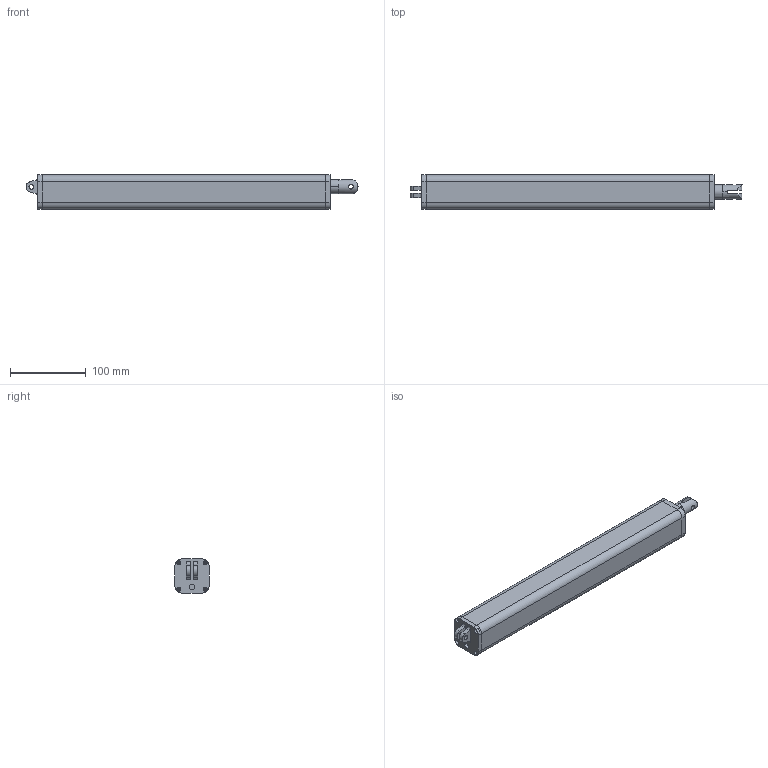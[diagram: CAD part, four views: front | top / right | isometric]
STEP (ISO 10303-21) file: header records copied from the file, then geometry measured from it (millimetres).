
FILE_DESCRIPTION((''),'2;1');
FILE_NAME('LAS4-S100_ASM','2007-07-11T',('amyliao'),(''),'PRO/ENGINEER BY PARAMETRIC TECHNOLOGY CORPORATION, 2003210','PRO/ENGINEER BY PARAMETRIC TECHNOLOGY CORPORATION, 2003210','');
FILE_SCHEMA(('CONFIG_CONTROL_DESIGN'));
Length unit declared in the file: millimetre
Products named in the file (7): OUT-TUBE; BACK-FIX; T1; T2; LAF-IN-TUBE; T3; LAS4-S100_ASM
Assembly tree (6 placements, depth 2):
  LAS4-S100_ASM
    OUT-TUBE
    BACK-FIX
    T1
    T2
    LAF-IN-TUBE
    T3
Bounding box: 438.84 x 45 x 45 mm (x, y, z)
Volume: 209570.6 mm3; surface area: 217867.4 mm2
Topology: 6 solids, 6 shells, 139 faces, 354 edges, 236 vertices
Faces by surface type: cylinder 83, plane 56
Entity records: 4641 total; most frequent: CARTESIAN_POINT 852, DIRECTION 814, ORIENTED_EDGE 708, EDGE_CURVE 354, AXIS2_PLACEMENT_3D 314, VERTEX_POINT 236, EDGE_LOOP 192, VECTOR 186
